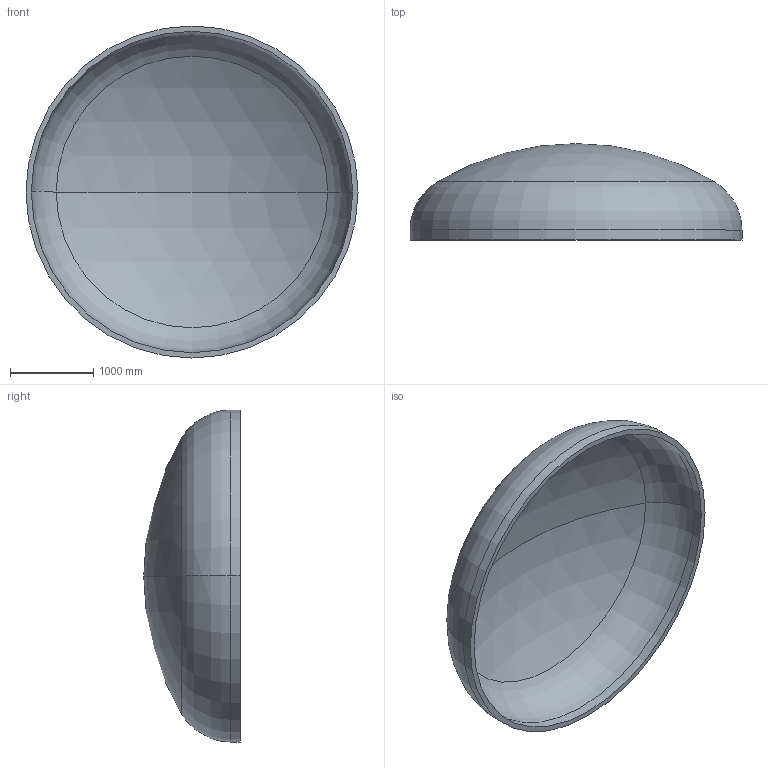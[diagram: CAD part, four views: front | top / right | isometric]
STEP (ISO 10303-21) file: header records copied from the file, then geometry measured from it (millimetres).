
FILE_DESCRIPTION (( 'STEP AP203' ), '1' );
FILE_NAME ('DIN 28013 Korbbogenform_-_Boden DIN 28013 - 4000 x 120 - I - s=64.step', '2016-07-01T22:35:06', ( '' ), ( '' ), 'SwSTEP 2.0', 'SolidWorks 2013', '' );
FILE_SCHEMA (( 'CONFIG_CONTROL_DESIGN' ));
Length unit declared in the file: millimetre
Products named in the file (1): DIN 28013 Korbbogenform_-_Boden DIN 28013 - 4000 x 120 - I - s=64
Bounding box: 4000 x 1162.02 x 4000 mm (x, y, z)
Volume: 1185211024 mm3; surface area: 37837789.6 mm2
Topology: 1 solids, 1 shells, 13 faces, 24 edges, 14 vertices
Faces by surface type: torus 4, cylinder 4, sphere 4, plane 1
Entity records: 407 total; most frequent: DIRECTION 72, CARTESIAN_POINT 52, ORIENTED_EDGE 48, AXIS2_PLACEMENT_3D 34, EDGE_CURVE 24, CIRCLE 20, EDGE_LOOP 14, VERTEX_POINT 14
